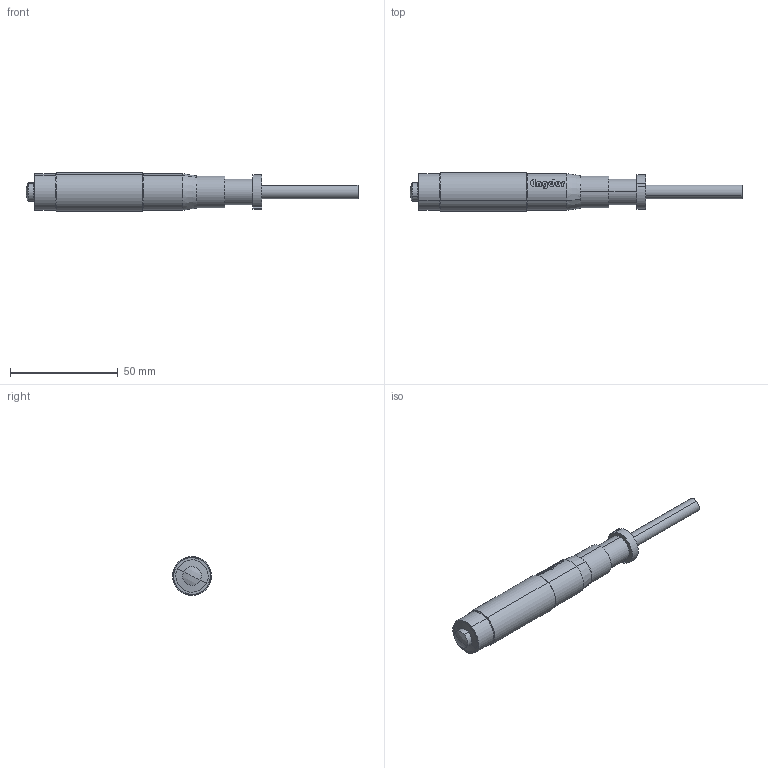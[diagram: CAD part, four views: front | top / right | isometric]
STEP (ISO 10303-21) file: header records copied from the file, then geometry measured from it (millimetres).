
FILE_DESCRIPTION (( 'STEP AP203' ), '1' );
FILE_NAME ('MT50-2.STEP', '2020-01-03T02:24:24', ( 'User' ), ( 'No' ), 'SwSTEP 2.0', 'SolidWorks 2012', '' );
FILE_SCHEMA (( 'CONFIG_CONTROL_DESIGN' ));
Length unit declared in the file: millimetre
Products named in the file (4): MT50-1_b_customer; MT50-1_a_customer; 螺母; MT50-2
Assembly tree (3 placements, depth 2):
  MT50-2
    MT50-1_b_customer
    MT50-1_a_customer
    螺母
Bounding box: 154 x 17.98 x 17.98 mm (x, y, z)
Volume: 21005.9 mm3; surface area: 16730 mm2
Topology: 3 solids, 3 shells, 144 faces, 363 edges, 239 vertices
Faces by surface type: plane 49, bspline 49, cylinder 32, torus 6, cone 4, sphere 4
Entity records: 10487 total; most frequent: CARTESIAN_POINT 6961, ORIENTED_EDGE 726, DIRECTION 516, EDGE_CURVE 363, VERTEX_POINT 239, AXIS2_PLACEMENT_3D 215, B_SPLINE_CURVE_WITH_KNOTS 163, EDGE_LOOP 162
